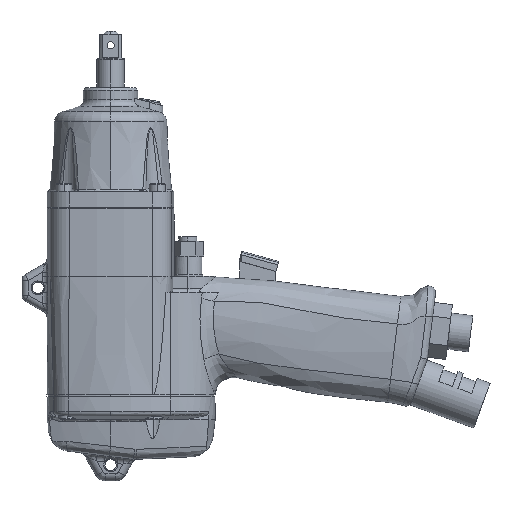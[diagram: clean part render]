
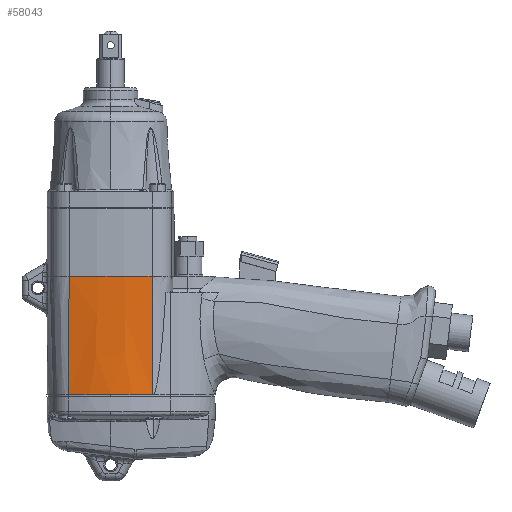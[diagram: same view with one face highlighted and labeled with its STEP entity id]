
A CAD part, left-side view. The second image highlights one B-rep face of the part: STEP entity #58043.
In plain terms, the highlighted free-form (B-spline) face has degree [3, 3] with [4, 4] control points.
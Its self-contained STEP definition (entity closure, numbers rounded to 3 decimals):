
#49976 = CARTESIAN_POINT ( 'NONE',  ( -26.605, -18.242, -30. ) ) ;
#55045 = VERTEX_POINT ( 'NONE', #49976 ) ;
#57924 = VERTEX_POINT ( 'NONE', #61004 ) ;
#57928 = EDGE_CURVE ( 'NONE', #57924, #55045, #61136, .T. ) ;
#57971 = VERTEX_POINT ( 'NONE', #61141 ) ;
#57975 = EDGE_CURVE ( 'NONE', #57977, #57971, #61270, .T. ) ;
#57977 = VERTEX_POINT ( 'NONE', #61263 ) ;
#58043 = ADVANCED_FACE ( 'NONE', ( #61466 ), #61615, .T. ) ;
#58047 = EDGE_LOOP ( 'NONE', ( #58049, #58158, #58160, #58161 ) ) ;
#58049 = ORIENTED_EDGE ( 'NONE', *, *, #57975, .T. ) ;
#58080 = EDGE_CURVE ( 'NONE', #57977, #57924, #61633, .T. ) ;
#58158 = ORIENTED_EDGE ( 'NONE', *, *, #58159, .T. ) ;
#58159 = EDGE_CURVE ( 'NONE', #57971, #55045, #62053, .T. ) ;
#58160 = ORIENTED_EDGE ( 'NONE', *, *, #57928, .F. ) ;
#58161 = ORIENTED_EDGE ( 'NONE', *, *, #58080, .F. ) ;
#60999 = CARTESIAN_POINT ( 'NONE',  ( 92., 0., -30. ) ) ;
#61004 = CARTESIAN_POINT ( 'NONE',  ( -26.605, 18.242, -30. ) ) ;
#61131 = DIRECTION ( 'NONE',  ( 1., 0., 0. ) ) ;
#61133 = DIRECTION ( 'NONE',  ( 0., 0., 1. ) ) ;
#61134 = AXIS2_PLACEMENT_3D ( 'NONE', #60999, #61133, #61131 ) ;
#61136 = CIRCLE ( 'NONE', #61134, 120. ) ;
#61141 = CARTESIAN_POINT ( 'NONE',  ( -25.033, -18.633, -82. ) ) ;
#61263 = CARTESIAN_POINT ( 'NONE',  ( -25.033, 18.633, -82. ) ) ;
#61264 = DIRECTION ( 'NONE',  ( 1., 0., 0. ) ) ;
#61266 = DIRECTION ( 'NONE',  ( 0., 0., 1. ) ) ;
#61267 = CARTESIAN_POINT ( 'NONE',  ( 32., 0., -82. ) ) ;
#61268 = AXIS2_PLACEMENT_3D ( 'NONE', #61267, #61266, #61264 ) ;
#61270 = CIRCLE ( 'NONE', #61268, 60. ) ;
#61466 = FACE_OUTER_BOUND ( 'NONE', #58047, .T. ) ;
#61519 = CARTESIAN_POINT ( 'NONE',  ( -26.605, 18.242, -30. ) ) ;
#61520 = CARTESIAN_POINT ( 'NONE',  ( -26.081, 18.372, -47.333 ) ) ;
#61522 = CARTESIAN_POINT ( 'NONE',  ( -25.557, 18.503, -64.667 ) ) ;
#61524 = CARTESIAN_POINT ( 'NONE',  ( -25.033, 18.633, -82. ) ) ;
#61589 = CARTESIAN_POINT ( 'NONE',  ( -26.605, -18.242, -30. ) ) ;
#61591 = CARTESIAN_POINT ( 'NONE',  ( -26.081, -18.372, -47.333 ) ) ;
#61593 = CARTESIAN_POINT ( 'NONE',  ( -25.557, -18.503, -64.667 ) ) ;
#61595 = CARTESIAN_POINT ( 'NONE',  ( -25.033, -18.633, -82. ) ) ;
#61597 = CARTESIAN_POINT ( 'NONE',  ( -28.468, -6.128, -30. ) ) ;
#61599 = CARTESIAN_POINT ( 'NONE',  ( -28.65, -6.225, -47.037 ) ) ;
#61601 = CARTESIAN_POINT ( 'NONE',  ( -28.835, -6.323, -64.368 ) ) ;
#61603 = CARTESIAN_POINT ( 'NONE',  ( -29.023, -6.423, -82. ) ) ;
#61606 = CARTESIAN_POINT ( 'NONE',  ( -28.468, 6.128, -30. ) ) ;
#61608 = CARTESIAN_POINT ( 'NONE',  ( -28.65, 6.225, -47.037 ) ) ;
#61610 = CARTESIAN_POINT ( 'NONE',  ( -28.835, 6.323, -64.368 ) ) ;
#61612 = CARTESIAN_POINT ( 'NONE',  ( -29.023, 6.423, -82. ) ) ;
#61615 =( BOUNDED_SURFACE ( )  B_SPLINE_SURFACE ( 3, 3, ( 
 ( #61524, #61522, #61520, #61519 ),
 ( #61612, #61610, #61608, #61606 ),
 ( #61603, #61601, #61599, #61597 ),
 ( #61595, #61593, #61591, #61589 ) ),
 .UNSPECIFIED., .F., .F., .T. ) 
 B_SPLINE_SURFACE_WITH_KNOTS ( ( 4, 4 ),
 ( 4, 4 ),
 ( 0., 1. ),
 ( 0., 1. ),
 .UNSPECIFIED. ) 
 GEOMETRIC_REPRESENTATION_ITEM ( )  RATIONAL_B_SPLINE_SURFACE ( (
 ( 1., 1., 1., 1.),
 ( 0.967, 0.975, 0.984, 0.992),
 ( 0.967, 0.975, 0.984, 0.992),
 ( 1., 1., 1., 1.) ) ) 
 REPRESENTATION_ITEM ( '' )  SURFACE ( )  );
#61633 = LINE ( 'NONE', #61735, #61734 ) ;
#61734 = VECTOR ( 'NONE', #61743, 1000. ) ;
#61735 = CARTESIAN_POINT ( 'NONE',  ( -25.819, 18.438, -56. ) ) ;
#61743 = DIRECTION ( 'NONE',  ( -0.03, -0.008, 1. ) ) ;
#62053 = LINE ( 'NONE', #62175, #62173 ) ;
#62171 = DIRECTION ( 'NONE',  ( -0.03, 0.008, 1. ) ) ;
#62173 = VECTOR ( 'NONE', #62171, 1000. ) ;
#62175 = CARTESIAN_POINT ( 'NONE',  ( -25.819, -18.438, -56. ) ) ;
